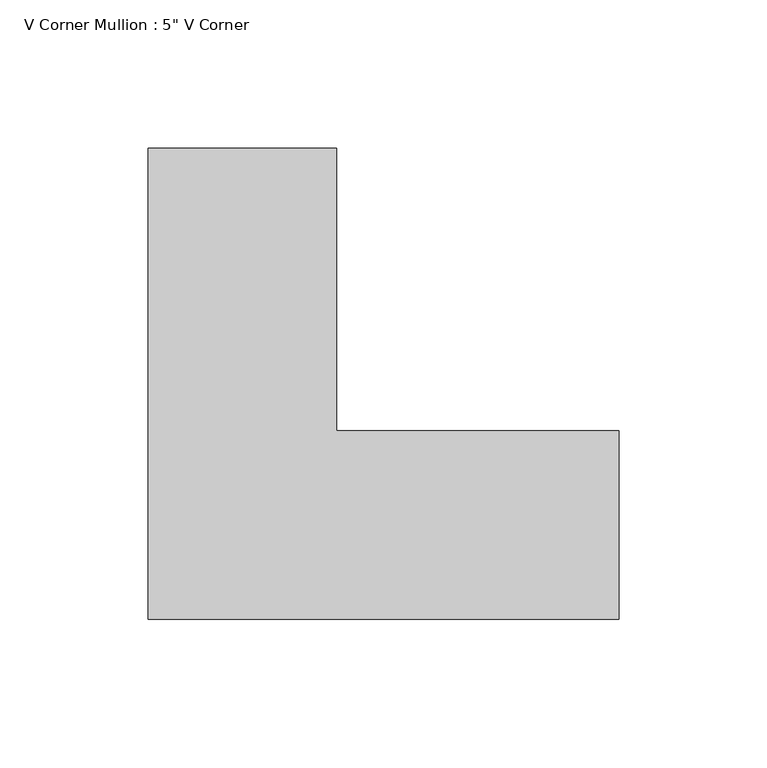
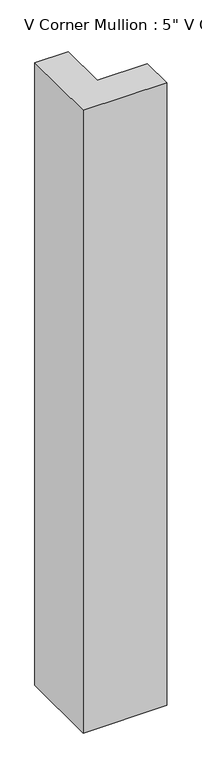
"""IFC4 building model written with IfcOpenShell, lengths in millimetres: member geometry."""

import ifcopenshell
import ifcopenshell.guid

model = None  # the IFC model being written
_history = None  # IfcOwnerHistory: only IFC2X3 demands one
_inside = {}  # id of a spatial element -> (the spatial element, [elements in it])
_under = {}  # id of a project, library or spatial element -> (it, [spatial elements below it])
_declared = {}  # id of a project -> (the project, [libraries it declares])
_typed = {}  # id of a type object -> (the type object, [elements of that type])
_made_of = {}  # id of a material, layer set ... -> (it, [elements and type objects made of it])


def new_model(schema):
    """Start an empty IFC model of exactly this schema.

    Asked for "IFC4X3", IfcOpenShell would pick the latest addendum, in which some entities
    have other attributes; the version numbers below select the first issue.
    IFC2X3 requires an IfcOwnerHistory on every rooted entity: one is made here for all.
    """
    global model, _history
    if schema == "IFC4X3":
        model = ifcopenshell.file(schema_version=(4, 3, 0, 0))
    else:
        model = ifcopenshell.file(schema=schema)
    _inside.clear()
    _under.clear()
    _declared.clear()
    _typed.clear()
    _made_of.clear()
    _history = None
    if model.schema == "IFC2X3":
        org = make("IfcOrganization", Name="unknown")
        user = make(
            "IfcPersonAndOrganization",
            ThePerson=make("IfcPerson", FamilyName="unknown"),
            TheOrganization=org,
        )
        app = make(
            "IfcApplication",
            ApplicationDeveloper=org,
            Version="unknown",
            ApplicationFullName="unknown",
            ApplicationIdentifier="unknown",
        )
        _history = make(
            "IfcOwnerHistory",
            OwningUser=user,
            OwningApplication=app,
            ChangeAction="ADDED",
            CreationDate=0,
        )
    return model


def make(cls, **values):
    """One entity of the class cls with the attributes given. An attribute that is None is left unset."""
    return model.create_entity(
        cls, **{name: value for name, value in values.items() if value is not None}
    )


def rooted(cls, **values):
    """An entity with a GlobalId (a new one), such as an element, a storey or a relation."""
    return make(cls, GlobalId=ifcopenshell.guid.new(), OwnerHistory=_history, **values)


def si_unit(unit_type, name, prefix=None):
    """IfcSIUnit, for example si_unit("LENGTHUNIT", "METRE", prefix="MILLI")."""
    return make("IfcSIUnit", UnitType=unit_type, Prefix=prefix, Name=name)


def assignment(units):
    """IfcUnitAssignment: the units of a project."""
    return None if units is None else make("IfcUnitAssignment", Units=units)


def point(xyz):
    """IfcCartesianPoint."""
    return None if xyz is None else make("IfcCartesianPoint", Coordinates=xyz)


def direction(xyz):
    """IfcDirection."""
    return None if xyz is None else make("IfcDirection", DirectionRatios=xyz)


def frame(location, z_axis=None, x_axis=None):
    """IfcAxis2Placement3D, a coordinate frame: its origin and axes. An axis left out is left unset."""
    return make(
        "IfcAxis2Placement3D",
        Location=point(location),
        Axis=direction(z_axis),
        RefDirection=direction(x_axis),
    )


def origin():
    """The frame at (0, 0, 0) with its axes left unset."""
    return frame((0.0, 0.0, 0.0))


def place(relative_to, where):
    """IfcLocalPlacement: puts the frame where relative to a parent placement (None: the world)."""
    return make(
        "IfcLocalPlacement", PlacementRelTo=relative_to, RelativePlacement=where
    )


def context(
    kind, dimensions, precision=None, world=None, true_north=None, identifier=None
):
    """IfcGeometricRepresentationContext, for example the 3D "Model" context."""
    return make(
        "IfcGeometricRepresentationContext",
        ContextIdentifier=identifier,
        ContextType=kind,
        CoordinateSpaceDimension=dimensions,
        Precision=precision,
        WorldCoordinateSystem=world,
        TrueNorth=true_north,
    )


def project(units=None, contexts=None):
    """IfcProject with its units and contexts."""
    return rooted(
        "IfcProject",
        Name="project",
        RepresentationContexts=contexts,
        UnitsInContext=assignment(units),
    )


def spatial(cls, under=None, at=None, **own):
    """A site, building, storey or space (cls), placed at a placement, below another one or the project."""
    s = rooted(cls, ObjectPlacement=at, **own)
    if under is not None:
        _under.setdefault(under.id(), (under, []))[1].append(s)
    return s


def polyline(points):
    """IfcPolyline through the points."""
    return make("IfcPolyline", Points=[point(p) for p in points])


def outline(outer, holes=None, kind="AREA"):
    """IfcArbitraryClosedProfileDef: a profile drawn as a closed curve; with holes, ...WithVoids."""
    if holes is None:
        return make("IfcArbitraryClosedProfileDef", ProfileType=kind, OuterCurve=outer)
    return make(
        "IfcArbitraryProfileDefWithVoids",
        ProfileType=kind,
        OuterCurve=outer,
        InnerCurves=holes,
    )


def extrude(swept, where, along, depth):
    """IfcExtrudedAreaSolid: the profile swept, set in the frame where, extruded along a direction by depth."""
    return make(
        "IfcExtrudedAreaSolid",
        SweptArea=swept,
        Position=where,
        ExtrudedDirection=direction(along),
        Depth=depth,
    )


def shape(context_of_items, identifier, shape_type, items):
    """IfcShapeRepresentation: the items that make up one representation, for example the "Body"."""
    return make(
        "IfcShapeRepresentation",
        ContextOfItems=context_of_items,
        RepresentationIdentifier=identifier,
        RepresentationType=shape_type,
        Items=items,
    )


def source(mapping_origin, context_of_items, identifier, shape_type, items):
    """IfcRepresentationMap: a shape defined once, which mapped items show again and again."""
    return make(
        "IfcRepresentationMap",
        MappingOrigin=mapping_origin,
        MappedRepresentation=shape(context_of_items, identifier, shape_type, items),
    )


def transform(
    local_origin,
    x_axis=None,
    y_axis=None,
    z_axis=None,
    scale=None,
    scale2=None,
    scale3=None,
    uniform=True,
):
    """IfcCartesianTransformationOperator3D, or its non-uniform kind. x_axis, y_axis, z_axis: its Axis1, 2, 3."""
    if uniform:
        return make(
            "IfcCartesianTransformationOperator3D",
            Axis1=direction(x_axis),
            Axis2=direction(y_axis),
            LocalOrigin=point(local_origin),
            Scale=scale,
            Axis3=direction(z_axis),
        )
    return make(
        "IfcCartesianTransformationOperator3DnonUniform",
        Axis1=direction(x_axis),
        Axis2=direction(y_axis),
        LocalOrigin=point(local_origin),
        Scale=scale,
        Axis3=direction(z_axis),
        Scale2=scale2,
        Scale3=scale3,
    )


def mapped(mapping_source, mapping_target):
    """IfcMappedItem: shows the shape of a source again, moved by a transform."""
    return make(
        "IfcMappedItem", MappingSource=mapping_source, MappingTarget=mapping_target
    )


def made_of(thing, what):
    """Note that an element or type object is made of a material, layer set ...; save() writes the relation."""
    if what is not None:
        _made_of.setdefault(what.id(), (what, []))[1].append(thing)
    return thing


def element(
    cls,
    number,
    at=None,
    inside=None,
    cuts=None,
    type_object=None,
    material=None,
    context=None,
    identifier="Body",
    shape_type=None,
    held_by="IfcProductDefinitionShape",
    body=None,
    shapes=None,
    **own,
):
    """One element of the class cls, such as IfcWall. Its Tag is "e" and its number.

    at: its placement. inside: the storey or other place that contains it. cuts: it is an
    opening in that element (IfcRelVoidsElement). A single representation is given by context,
    identifier, shape_type and body (its items); several are given by shapes. held_by: the class
    of the entity that holds the representations. save() writes the other relations.
    """
    e = rooted(cls, Tag="e%d" % number, ObjectPlacement=at, **own)
    if body is not None:
        shapes = [shape(context, identifier, shape_type, body)]
    if shapes is not None:
        e.Representation = make(held_by, Representations=shapes)
    if inside is not None:
        _inside.setdefault(inside.id(), (inside, []))[1].append(e)
    if cuts is not None:
        rooted(
            "IfcRelVoidsElement", RelatingBuildingElement=cuts, RelatedOpeningElement=e
        )
    if type_object is not None:
        _typed.setdefault(type_object.id(), (type_object, []))[1].append(e)
    return made_of(e, material)


def aggregate(whole, parts):
    """IfcRelAggregates: a whole, such as a stair, and the parts it consists of."""
    return rooted("IfcRelAggregates", RelatingObject=whole, RelatedObjects=parts)


def save(model, path):
    """Write the relations noted so far, then the file.

    IfcRelAggregates (storeys below a building ...), IfcRelContainedInSpatialStructure (elements
    in a storey), IfcRelDefinesByType, IfcRelAssociatesMaterial and IfcRelDeclares: one each for
    every whole, place, type object, material and project.
    """
    for whole, parts in _under.values():
        aggregate(whole, parts)
    for where, things in _inside.values():
        rooted(
            "IfcRelContainedInSpatialStructure",
            RelatedElements=things,
            RelatingStructure=where,
        )
    for kind, things in _typed.values():
        rooted("IfcRelDefinesByType", RelatedObjects=things, RelatingType=kind)
    for what, things in _made_of.values():
        rooted("IfcRelAssociatesMaterial", RelatedObjects=things, RelatingMaterial=what)
    for by, libraries in _declared.values():
        rooted("IfcRelDeclares", RelatingContext=by, RelatedDefinitions=libraries)
    model.write(path)


def member_cba7b570(model_context):
    return source(origin(), model_context, "Body", "SweptSolid", [
        extrude(outline(polyline([(63.5, -95.25), (-95.25, -95.25), (-95.25, 63.5), (-31.75, 63.5), (-31.75, -31.75), (63.5, -31.75), (63.5, -95.25)])), frame((0.0, 0.0, -1250.95), z_axis=(0.0, 0.0, 1.0), x_axis=(1.0, 0.0, 0.0)), (0.0, 0.0, 1.0), 1250.95),
    ])


if __name__ == "__main__":
    model = new_model("IFC4")
    model_context = context("Model", 3, world=origin())
    ifc_project = project(units=[si_unit("LENGTHUNIT", "METRE", prefix="MILLI")], contexts=[model_context])
    site = spatial("IfcSite", under=ifc_project)
    building = spatial("IfcBuilding", under=site)
    placement = place(None, origin())
    member_shape = member_cba7b570(model_context)
    element("IfcMember", 1, ObjectType="V Corner Mullion : 5\" V Corner", at=placement, inside=building, context=model_context, shape_type="MappedRepresentation", body=[
        mapped(member_shape, transform((0.0, 0.0, 0.0), x_axis=(1.0, 0.0, 0.0), y_axis=(0.0, 1.0, 0.0), z_axis=(0.0, 0.0, 1.0))),
    ])
    save(model, "model.ifc")
